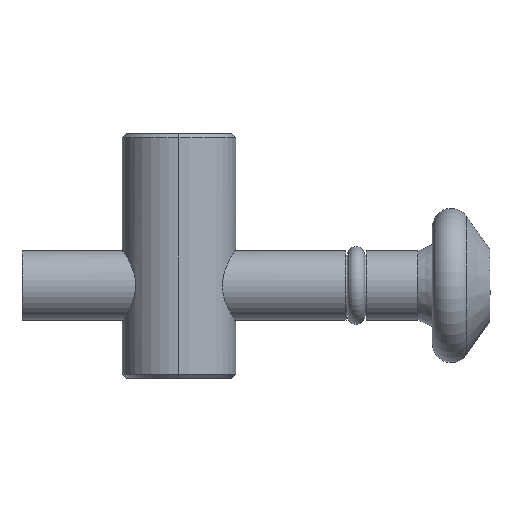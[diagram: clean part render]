
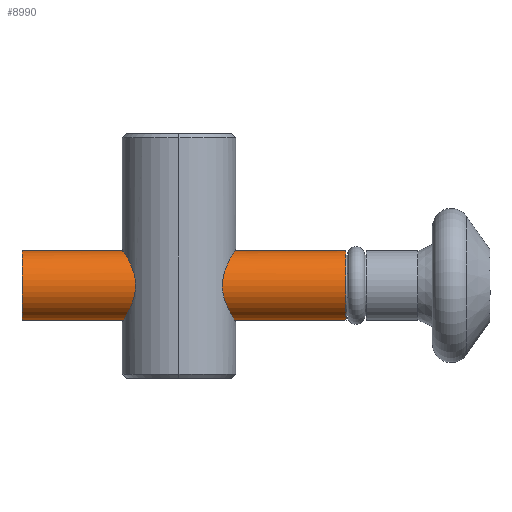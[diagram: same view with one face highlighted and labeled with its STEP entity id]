
A CAD part, front view. The second image highlights one B-rep face of the part: STEP entity #8990.
In plain terms, the highlighted cylindrical face has radius 2.4 mm (diameter 4.8 mm), a partial arc.
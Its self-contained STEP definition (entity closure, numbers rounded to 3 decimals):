
#83 = LINE ( 'NONE', #9164, #3475 ) ;
#103 = FACE_OUTER_BOUND ( 'NONE', #5131, .T. ) ;
#342 = DIRECTION ( 'NONE',  ( 1., 0., 0. ) ) ;
#486 = CARTESIAN_POINT ( 'NONE',  ( -2.341, -0.537, -25.449 ) ) ;
#634 = CARTESIAN_POINT ( 'NONE',  ( -2.289, -0.728, -17.84 ) ) ;
#682 = CARTESIAN_POINT ( 'NONE',  ( -2.188, -0.991, -18.016 ) ) ;
#1129 = CARTESIAN_POINT ( 'NONE',  ( -2.028, -1.294, -24.902 ) ) ;
#1179 = B_SPLINE_CURVE_WITH_KNOTS ( 'NONE', 3,
 ( #3558, #4892, #2718, #5731, #486, #2765, #8815, #1129, #4157, #5084, #6575, #2811, #7178, #5825, #8860, #8111, #4115, #7132, #8909, #4497, #4447, #3015, #9115, #5233, #1474, #9658, #2962, #2172, #682, #7518, #634, #2120, #7367, #9705 ),
 .UNSPECIFIED., .F., .F.,
 ( 4, 2, 2, 2, 2, 2, 2, 2, 2, 2, 2, 2, 2, 2, 2, 2, 4 ),
 ( 0.02, 0.02, 0.02, 0.021, 0.022, 0.022, 0.024, 0.024, 0.025, 0.026, 0.026, 0.028, 0.028, 0.029, 0.029, 0.03, 0.03 ),
 .UNSPECIFIED. ) ;
#1429 = CARTESIAN_POINT ( 'NONE',  ( -2.4, 0., -32.5 ) ) ;
#1474 = CARTESIAN_POINT ( 'NONE',  ( -1.761, -1.637, -18.79 ) ) ;
#1731 = CARTESIAN_POINT ( 'NONE',  ( 2.4, 0., -10. ) ) ;
#1765 = EDGE_CURVE ( 'NONE', #8074, #8887, #6032, .T. ) ;
#1804 = VERTEX_POINT ( 'NONE', #1429 ) ;
#1845 = AXIS2_PLACEMENT_3D ( 'NONE', #7086, #2969, #3516 ) ;
#2019 = AXIS2_PLACEMENT_3D ( 'NONE', #6453, #4271, #8033 ) ;
#2120 = CARTESIAN_POINT ( 'NONE',  ( -2.368, -0.438, -17.704 ) ) ;
#2172 = CARTESIAN_POINT ( 'NONE',  ( -2.15, -1.069, -18.083 ) ) ;
#2182 = CARTESIAN_POINT ( 'NONE',  ( -2.4, 0., 0. ) ) ;
#2445 = ORIENTED_EDGE ( 'NONE', *, *, #7944, .F. ) ;
#2477 = DIRECTION ( 'NONE',  ( 0., 0., 1. ) ) ;
#2622 = ORIENTED_EDGE ( 'NONE', *, *, #6198, .T. ) ;
#2718 = CARTESIAN_POINT ( 'NONE',  ( -2.392, -0.222, -25.537 ) ) ;
#2765 = CARTESIAN_POINT ( 'NONE',  ( -2.261, -0.828, -25.312 ) ) ;
#2811 = CARTESIAN_POINT ( 'NONE',  ( -1.395, -1.968, -23.682 ) ) ;
#2922 = DIRECTION ( 'NONE',  ( 0., 0., 1. ) ) ;
#2956 = CIRCLE ( 'NONE', #1845, 2.4 ) ;
#2962 = CARTESIAN_POINT ( 'NONE',  ( -2.03, -1.291, -18.295 ) ) ;
#2969 = DIRECTION ( 'NONE',  ( 0., 0., 1. ) ) ;
#3015 = CARTESIAN_POINT ( 'NONE',  ( -1.219, -2.073, -19.903 ) ) ;
#3171 = ORIENTED_EDGE ( 'NONE', *, *, #4349, .T. ) ;
#3218 = CARTESIAN_POINT ( 'NONE',  ( -2.4, 0., 0. ) ) ;
#3369 = VECTOR ( 'NONE', #2922, 1000. ) ;
#3475 = VECTOR ( 'NONE', #7802, 1000. ) ;
#3516 = DIRECTION ( 'NONE',  ( 1., 0., 0. ) ) ;
#3558 = CARTESIAN_POINT ( 'NONE',  ( -2.4, 0., -25.55 ) ) ;
#4115 = CARTESIAN_POINT ( 'NONE',  ( -0.849, -2.245, -21.817 ) ) ;
#4157 = CARTESIAN_POINT ( 'NONE',  ( -1.941, -1.418, -24.745 ) ) ;
#4256 = CARTESIAN_POINT ( 'NONE',  ( -2.4, 0., -25.55 ) ) ;
#4271 = DIRECTION ( 'NONE',  ( 0., 0., 1. ) ) ;
#4349 = EDGE_CURVE ( 'NONE', #6898, #5923, #83, .T. ) ;
#4447 = CARTESIAN_POINT ( 'NONE',  ( -1.012, -2.178, -20.519 ) ) ;
#4497 = CARTESIAN_POINT ( 'NONE',  ( -0.953, -2.203, -20.732 ) ) ;
#4892 = CARTESIAN_POINT ( 'NONE',  ( -2.4, -0.11, -25.55 ) ) ;
#5084 = CARTESIAN_POINT ( 'NONE',  ( -1.761, -1.637, -24.41 ) ) ;
#5131 = EDGE_LOOP ( 'NONE', ( #2445, #2622, #3171, #5561, #6420, #6063 ) ) ;
#5233 = CARTESIAN_POINT ( 'NONE',  ( -1.668, -1.73, -18.968 ) ) ;
#5499 = CIRCLE ( 'NONE', #2019, 2.4 ) ;
#5561 = ORIENTED_EDGE ( 'NONE', *, *, #7438, .F. ) ;
#5731 = CARTESIAN_POINT ( 'NONE',  ( -2.363, -0.434, -25.486 ) ) ;
#5825 = CARTESIAN_POINT ( 'NONE',  ( -1.011, -2.178, -22.676 ) ) ;
#5923 = VERTEX_POINT ( 'NONE', #1731 ) ;
#6032 = LINE ( 'NONE', #2182, #3369 ) ;
#6063 = ORIENTED_EDGE ( 'NONE', *, *, #9064, .F. ) ;
#6198 = EDGE_CURVE ( 'NONE', #1804, #6898, #2956, .T. ) ;
#6238 = CYLINDRICAL_SURFACE ( 'NONE', #8667, 2.4 ) ;
#6285 = VERTEX_POINT ( 'NONE', #4256 ) ;
#6420 = ORIENTED_EDGE ( 'NONE', *, *, #1765, .F. ) ;
#6453 = CARTESIAN_POINT ( 'NONE',  ( 0., 0., -10. ) ) ;
#6575 = CARTESIAN_POINT ( 'NONE',  ( -1.667, -1.73, -24.231 ) ) ;
#6885 = LINE ( 'NONE', #3218, #7558 ) ;
#6898 = VERTEX_POINT ( 'NONE', #7449 ) ;
#7086 = CARTESIAN_POINT ( 'NONE',  ( 0., 0., -32.5 ) ) ;
#7132 = CARTESIAN_POINT ( 'NONE',  ( -0.85, -2.245, -21.377 ) ) ;
#7178 = CARTESIAN_POINT ( 'NONE',  ( -1.219, -2.073, -23.297 ) ) ;
#7367 = CARTESIAN_POINT ( 'NONE',  ( -2.4, -0.22, -17.65 ) ) ;
#7438 = EDGE_CURVE ( 'NONE', #8887, #5923, #5499, .T. ) ;
#7449 = CARTESIAN_POINT ( 'NONE',  ( 2.4, 0., -32.5 ) ) ;
#7518 = CARTESIAN_POINT ( 'NONE',  ( -2.257, -0.82, -17.895 ) ) ;
#7558 = VECTOR ( 'NONE', #2477, 1000. ) ;
#7677 = CARTESIAN_POINT ( 'NONE',  ( -2.4, 0., -17.65 ) ) ;
#7802 = DIRECTION ( 'NONE',  ( 0., 0., 1. ) ) ;
#7944 = EDGE_CURVE ( 'NONE', #1804, #6285, #6885, .T. ) ;
#8008 = DIRECTION ( 'NONE',  ( 0., 0., 1. ) ) ;
#8033 = DIRECTION ( 'NONE',  ( 1., 0., 0. ) ) ;
#8074 = VERTEX_POINT ( 'NONE', #7677 ) ;
#8111 = CARTESIAN_POINT ( 'NONE',  ( -0.872, -2.236, -22.038 ) ) ;
#8526 = CARTESIAN_POINT ( 'NONE',  ( 0., 0., 0. ) ) ;
#8667 = AXIS2_PLACEMENT_3D ( 'NONE', #8526, #8008, #342 ) ;
#8815 = CARTESIAN_POINT ( 'NONE',  ( -2.189, -0.998, -25.187 ) ) ;
#8860 = CARTESIAN_POINT ( 'NONE',  ( -0.953, -2.203, -22.466 ) ) ;
#8887 = VERTEX_POINT ( 'NONE', #9326 ) ;
#8909 = CARTESIAN_POINT ( 'NONE',  ( -0.872, -2.236, -21.16 ) ) ;
#8990 = ADVANCED_FACE ( 'NONE', ( #103 ), #6238, .T. ) ;
#9064 = EDGE_CURVE ( 'NONE', #6285, #8074, #1179, .T. ) ;
#9115 = CARTESIAN_POINT ( 'NONE',  ( -1.394, -1.968, -19.518 ) ) ;
#9164 = CARTESIAN_POINT ( 'NONE',  ( 2.4, 0., 0. ) ) ;
#9326 = CARTESIAN_POINT ( 'NONE',  ( -2.4, 0., -10. ) ) ;
#9658 = CARTESIAN_POINT ( 'NONE',  ( -1.941, -1.418, -18.455 ) ) ;
#9705 = CARTESIAN_POINT ( 'NONE',  ( -2.4, 0., -17.65 ) ) ;
